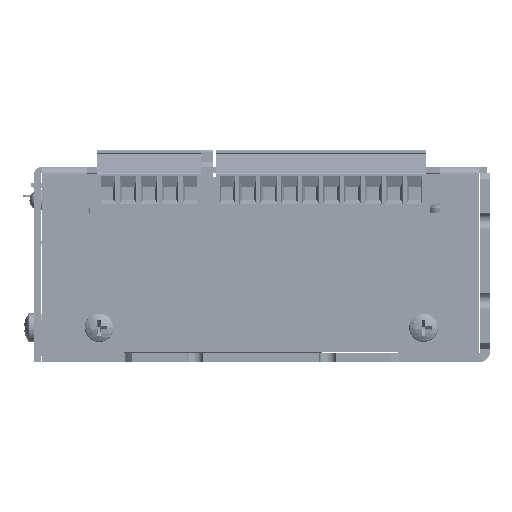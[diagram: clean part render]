
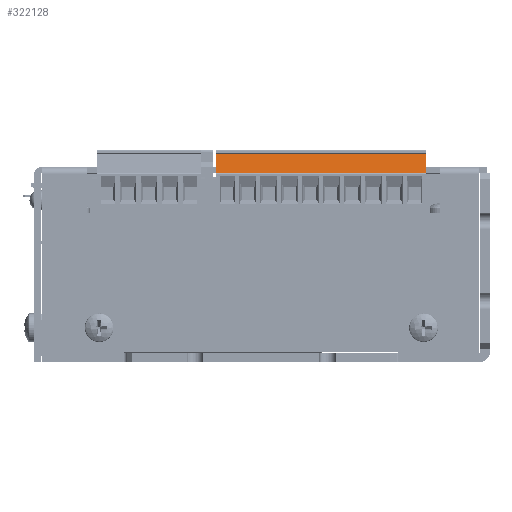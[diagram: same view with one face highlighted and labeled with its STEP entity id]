
A CAD part, left-side view. The second image highlights one B-rep face of the part: STEP entity #322128.
In plain terms, the highlighted planar face has unit normal (-0.985, 0, 0.174) as drawn and (0.985, 0.174, 0) by its records, which use the part's own axes.
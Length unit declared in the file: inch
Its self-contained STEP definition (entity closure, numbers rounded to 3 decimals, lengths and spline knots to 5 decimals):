
#37660 = VERTEX_POINT ( 'NONE', #389151 ) ;
#37669 = VERTEX_POINT ( 'NONE', #389145 ) ;
#37694 = VERTEX_POINT ( 'NONE', #389154 ) ;
#37709 = VERTEX_POINT ( 'NONE', #389161 ) ;
#53157 = EDGE_LOOP ( 'NONE', ( #90556, #90562, #90565, #90570 ) ) ;
#90556 = ORIENTED_EDGE ( 'NONE', *, *, #488073, .T. ) ;
#90562 = ORIENTED_EDGE ( 'NONE', *, *, #489258, .F. ) ;
#90565 = ORIENTED_EDGE ( 'NONE', *, *, #488069, .T. ) ;
#90570 = ORIENTED_EDGE ( 'NONE', *, *, #489262, .T. ) ;
#238349 = FACE_OUTER_BOUND ( 'NONE', #53157, .T. ) ;
#238350 = PLANE ( 'NONE',  #240902 ) ;
#238386 = CARTESIAN_POINT ( 'NONE',  ( 0.34565, 0.50604, -1.47638 ) ) ;
#238388 = DIRECTION ( 'NONE',  ( 0.985, 0.174, 0. ) ) ;
#238389 = DIRECTION ( 'NONE',  ( -0.174, 0.985, 0. ) ) ;
#240902 = AXIS2_PLACEMENT_3D ( 'NONE', #238386, #238388, #238389 ) ;
#275228 = LINE ( 'NONE', #275241, #277691 ) ;
#275236 = CARTESIAN_POINT ( 'NONE',  ( 0.34565, 0.50604, -1.47638 ) ) ;
#275241 = CARTESIAN_POINT ( 'NONE',  ( 0.37795, 0.32283, -1.47638 ) ) ;
#275243 = LINE ( 'NONE', #275236, #277684 ) ;
#275246 = DIRECTION ( 'NONE',  ( 0., 0., -1. ) ) ;
#275255 = DIRECTION ( 'NONE',  ( 0., 0., 1. ) ) ;
#277684 = VECTOR ( 'NONE', #275255, 39.37008 ) ;
#277691 = VECTOR ( 'NONE', #275246, 39.37008 ) ;
#278627 = VECTOR ( 'NONE', #299685, 39.37008 ) ;
#278631 = VECTOR ( 'NONE', #299689, 39.37008 ) ;
#299674 = CARTESIAN_POINT ( 'NONE',  ( 0.37795, 0.32283, 0. ) ) ;
#299678 = LINE ( 'NONE', #299674, #278627 ) ;
#299679 = LINE ( 'NONE', #299686, #278631 ) ;
#299685 = DIRECTION ( 'NONE',  ( -0.174, 0.985, 0. ) ) ;
#299686 = CARTESIAN_POINT ( 'NONE',  ( 0.37795, 0.32283, -1.9685 ) ) ;
#299689 = DIRECTION ( 'NONE',  ( -0.174, 0.985, 0. ) ) ;
#322128 = ADVANCED_FACE ( 'NONE', ( #238349 ), #238350, .T. ) ;
#389145 = CARTESIAN_POINT ( 'NONE',  ( 0.34565, 0.50604, -1.9685 ) ) ;
#389151 = CARTESIAN_POINT ( 'NONE',  ( 0.37795, 0.32283, 0. ) ) ;
#389154 = CARTESIAN_POINT ( 'NONE',  ( 0.37795, 0.32283, -1.9685 ) ) ;
#389161 = CARTESIAN_POINT ( 'NONE',  ( 0.34565, 0.50604, 0. ) ) ;
#488069 = EDGE_CURVE ( 'NONE', #37660, #37694, #275228, .T. ) ;
#488073 = EDGE_CURVE ( 'NONE', #37669, #37709, #275243, .T. ) ;
#489258 = EDGE_CURVE ( 'NONE', #37660, #37709, #299678, .T. ) ;
#489262 = EDGE_CURVE ( 'NONE', #37694, #37669, #299679, .T. ) ;
